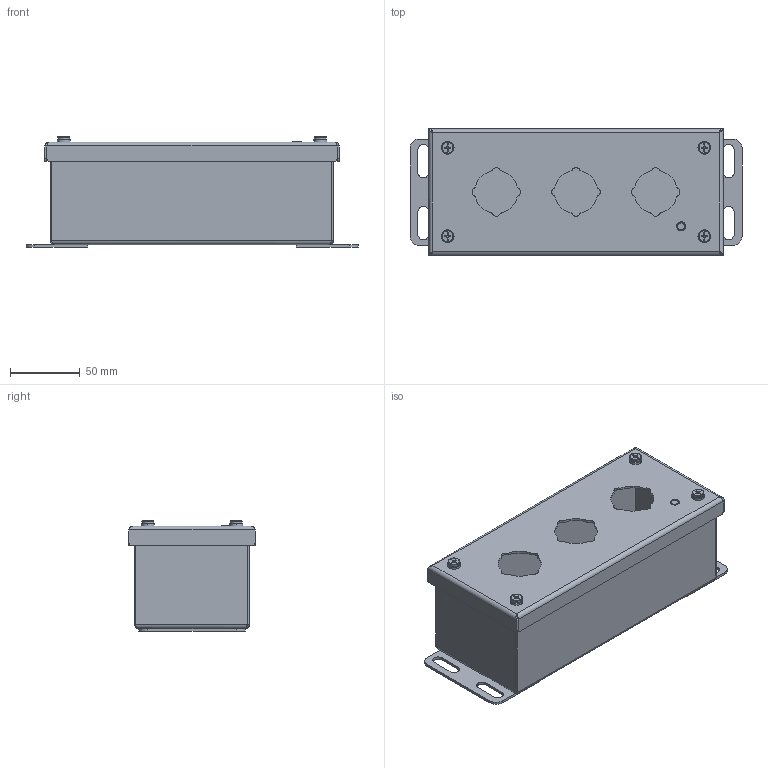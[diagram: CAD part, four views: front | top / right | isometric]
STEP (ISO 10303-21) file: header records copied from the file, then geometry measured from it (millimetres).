
FILE_DESCRIPTION((''),'2;1');
FILE_NAME('MODEL-394_ASM','2021-06-07T09:49:02',('mikek'),('SAGINAW CONTROL & ENGINEERING'),'CREO PARAMETRIC BY PTC INC, 2017260','CREO PARAMETRIC BY PTC INC, 2017260','');
FILE_SCHEMA(('AUTOMOTIVE_DESIGN { 1 0 10303 214 1 1 1 1 }'));
Length unit declared in the file: inch
Products named in the file (10): MODEL-394-BDY; MODEL-394-DR; 100097; 102192; 101966; 100012; 102599; 102534; MODEL-394-GSKT; MODEL-394_ASM
Assembly tree (16 placements, depth 2):
  MODEL-394_ASM
    MODEL-394-BDY
    MODEL-394-DR
    100097
    102192  x2
    101966
    100012
    102599  x4
    102534  x4
    MODEL-394-GSKT
Bounding box: 238.12 x 90.49 x 79.34 mm (x, y, z)
Volume: 148487.5 mm3; surface area: 195636.8 mm2
Topology: 19 solids, 19 shells, 759 faces, 1894 edges, 1116 vertices
Faces by surface type: cylinder 268, plane 267, bspline 108, torus 88, cone 28
Entity records: 22632 total; most frequent: CARTESIAN_POINT 5971, DIRECTION 2268, ORIENTED_EDGE 2176, EDGE_CURVE 1088, PRESENTATION_STYLE_ASSIGNMENT 1000, STYLED_ITEM 1000, CURVE_STYLE 924, AXIS2_PLACEMENT_3D 835
